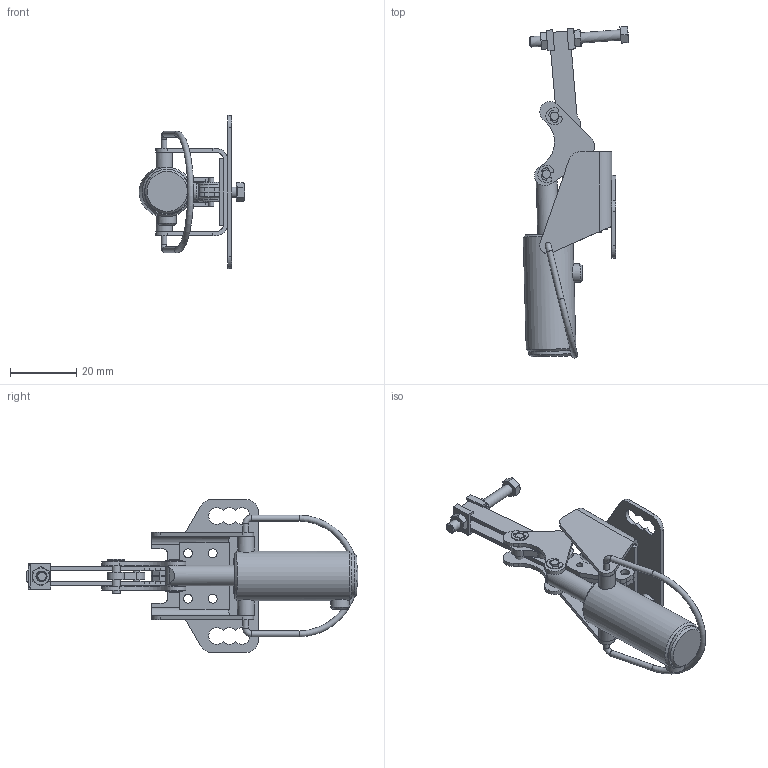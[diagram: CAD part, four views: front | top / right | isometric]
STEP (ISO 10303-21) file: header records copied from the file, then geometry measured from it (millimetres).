
FILE_DESCRIPTION((' '),'2;1');
FILE_NAME('C:\Users\Nick\Desktop\AOV-201-FM\3D\AOV-201-FM Open.stp','2015-05-22T13:55:39',(' '),(' '),' ','ACIS',' ');
FILE_SCHEMA(('CONFIG_CONTROL_DESIGN'));
Length unit declared in the file: inch
Products named in the file (35): C:\Users\Nick\Desktop\AOV-201-FM\3D\AOV-201-FM Open.stp; Body1; Body2; Body3; Body4; Body5; Body6; Body7; Body8; Body9; Body10; Body11; Body12; Body13; Body14; Body15; Body16; Body17; Body18; Body19; Body20; Body21; Body22; Body23; Body24; Body25; Body26; Body27; Body28; Body29; Body30; Body31; Body32; Body33; Body34
Assembly tree (34 placements, depth 2):
  C:\Users\Nick\Desktop\AOV-201-FM\3D\AOV-201-FM Open.stp
    Body1
    Body2
    Body3
    Body4
    Body5
    Body6
    Body7
    Body8
    Body9
    Body10
    Body11
    Body12
    Body13
    Body14
    Body15
    Body16
    Body17
    Body18
    Body19
    Body20
    Body21
    Body22
    Body23
    Body24
    Body25
    Body26
    Body27
    Body28
    Body29
    Body30
    Body31
    Body32
    Body33
    Body34
Bounding box: 31.88 x 100.21 x 46.25 mm (x, y, z)
Volume: 9839.4 mm3; surface area: 16230 mm2
Topology: 34 solids, 34 shells, 464 faces, 1134 edges, 745 vertices
Faces by surface type: plane 226, cylinder 188, cone 40, torus 9, bspline 1
Full cylindrical faces by diameter (mm): 1.565 x1, 1.77 x4, 1.84 x1, 1.87 x8, 1.875 x6, 1.88 x2, 2.187 x2, 2.5 x3, 2.52 x2, 2.66 x14, 3.125 x1, 3.28 x2, 3.43 x4, 4.375 x1, 5 x2, 5.625 x3, 6.25 x2, 13.125 x1, 13.4 x1, 15 x1
Entity records: 18850 total; most frequent: CARTESIAN_POINT 3063, DIRECTION 2404, ORIENTED_EDGE 2060, EDGE_CURVE 1030, AXIS2_PLACEMENT_3D 938, VERTEX_POINT 719, EDGE_LOOP 625, VECTOR 528
